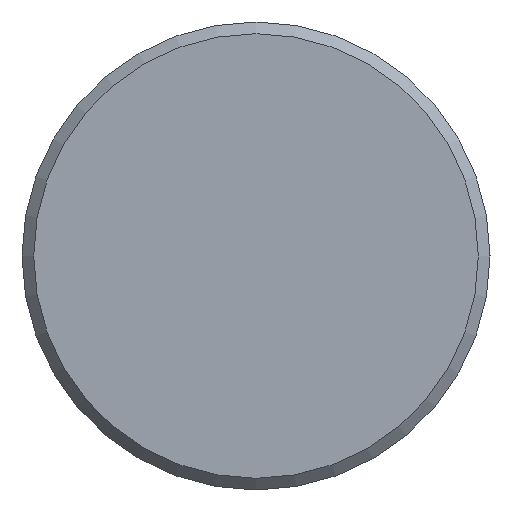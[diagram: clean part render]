
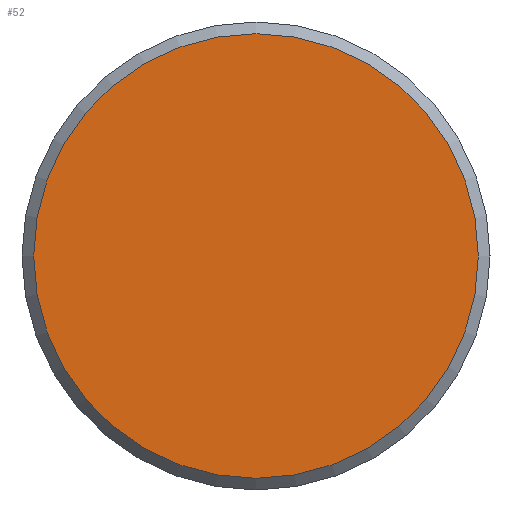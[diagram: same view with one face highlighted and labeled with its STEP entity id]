
A CAD part, left-side view. The second image highlights one B-rep face of the part: STEP entity #52.
In plain terms, the highlighted planar face has unit normal (-1, 0, 0).
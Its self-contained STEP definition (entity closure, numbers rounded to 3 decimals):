
#52 = ADVANCED_FACE( '', ( #111 ), #112, .F. );
#111 = FACE_OUTER_BOUND( '', #172, .T. );
#112 = PLANE( '', #173 );
#172 = EDGE_LOOP( '', ( #241 ) );
#173 = AXIS2_PLACEMENT_3D( '', #242, #243, #244 );
#241 = ORIENTED_EDGE( '', *, *, #285, .F. );
#242 = CARTESIAN_POINT( '', ( -40.8, 0., 0. ) );
#243 = DIRECTION( '', ( 1., 0., 0. ) );
#244 = DIRECTION( '', ( 0., 0., -1. ) );
#285 = EDGE_CURVE( '', #315, #315, #316, .T. );
#315 = VERTEX_POINT( '', #355 );
#316 = CIRCLE( '', #356, 19. );
#355 = CARTESIAN_POINT( '', ( -40.8, 0., -19. ) );
#356 = AXIS2_PLACEMENT_3D( '', #396, #397, #398 );
#396 = CARTESIAN_POINT( '', ( -40.8, 0., 0. ) );
#397 = DIRECTION( '', ( 1., 0., 0. ) );
#398 = DIRECTION( '', ( 0., 0., -1. ) );
